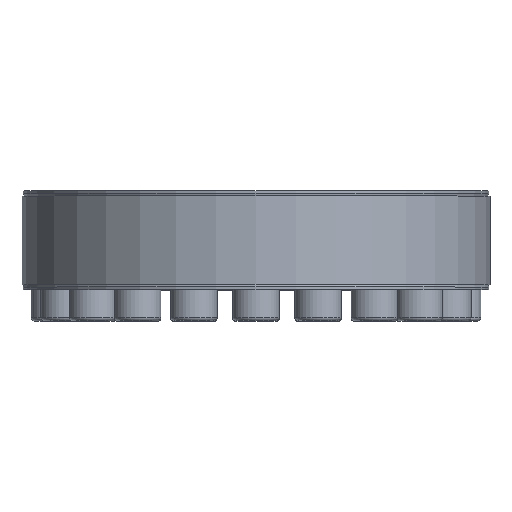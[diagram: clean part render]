
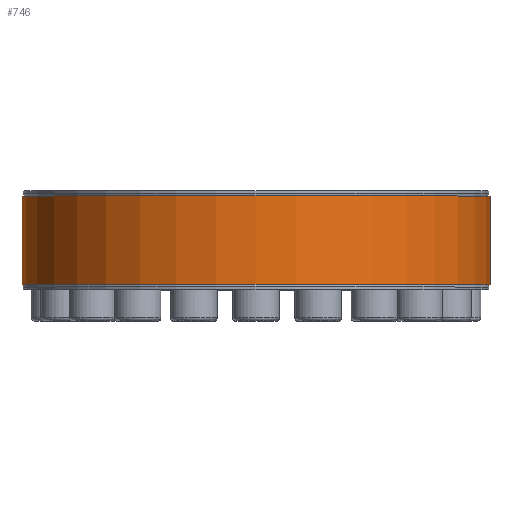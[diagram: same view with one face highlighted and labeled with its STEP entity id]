
A CAD part, top view. The second image highlights one B-rep face of the part: STEP entity #746.
In plain terms, the highlighted cylindrical face has radius 90 mm (diameter 180 mm), a partial arc.
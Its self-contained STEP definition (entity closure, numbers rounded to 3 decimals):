
#746 = ADVANCED_FACE( '', ( #1498 ), #1499, .T. );
#1498 = FACE_OUTER_BOUND( '', #2887, .T. );
#1499 = CYLINDRICAL_SURFACE( '', #2888, 90. );
#2887 = EDGE_LOOP( '', ( #4364, #4365, #4366, #4367 ) );
#2888 = AXIS2_PLACEMENT_3D( '', #4368, #4369, #4370 );
#4364 = ORIENTED_EDGE( '', *, *, #7549, .F. );
#4365 = ORIENTED_EDGE( '', *, *, #7550, .T. );
#4366 = ORIENTED_EDGE( '', *, *, #7551, .T. );
#4367 = ORIENTED_EDGE( '', *, *, #7552, .F. );
#4368 = CARTESIAN_POINT( '', ( 0., -60., 0. ) );
#4369 = DIRECTION( '', ( 0., -1., 0. ) );
#4370 = DIRECTION( '', ( 0., 0., 1. ) );
#7549 = EDGE_CURVE( '', #8440, #8441, #8442, .F. );
#7550 = EDGE_CURVE( '', #8440, #8443, #8444, .T. );
#7551 = EDGE_CURVE( '', #8443, #8445, #8446, .F. );
#7552 = EDGE_CURVE( '', #8441, #8445, #8447, .T. );
#8440 = VERTEX_POINT( '', #9744 );
#8441 = VERTEX_POINT( '', #9745 );
#8442 = LINE( '', #9746, #9747 );
#8443 = VERTEX_POINT( '', #9748 );
#8444 = CIRCLE( '', #9749, 90. );
#8445 = VERTEX_POINT( '', #9750 );
#8446 = LINE( '', #9751, #9752 );
#8447 = CIRCLE( '', #9753, 90. );
#9744 = CARTESIAN_POINT( '', ( 1.5, 17., -89.987 ) );
#9745 = CARTESIAN_POINT( '', ( 1.5, -17., -89.987 ) );
#9746 = CARTESIAN_POINT( '', ( 1.5, -60., -89.987 ) );
#9747 = VECTOR( '', #12185, 1000. );
#9748 = CARTESIAN_POINT( '', ( -1.5, 17., -89.987 ) );
#9749 = AXIS2_PLACEMENT_3D( '', #12186, #12187, #12188 );
#9750 = CARTESIAN_POINT( '', ( -1.5, -17., -89.987 ) );
#9751 = CARTESIAN_POINT( '', ( -1.5, -60., -89.987 ) );
#9752 = VECTOR( '', #12189, 1000. );
#9753 = AXIS2_PLACEMENT_3D( '', #12190, #12191, #12192 );
#12185 = DIRECTION( '', ( 0., 1., 0. ) );
#12186 = CARTESIAN_POINT( '', ( 0., 17., 0. ) );
#12187 = DIRECTION( '', ( 0., -1., 0. ) );
#12188 = DIRECTION( '', ( 0., 0., -1. ) );
#12189 = DIRECTION( '', ( 0., 1., 0. ) );
#12190 = CARTESIAN_POINT( '', ( 0., -17., 0. ) );
#12191 = DIRECTION( '', ( 0., -1., 0. ) );
#12192 = DIRECTION( '', ( 0., 0., -1. ) );
